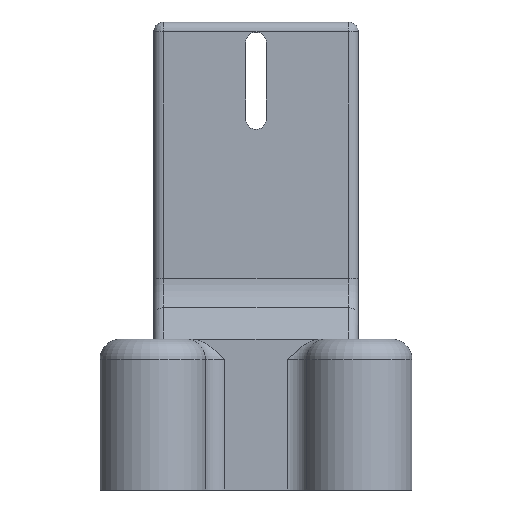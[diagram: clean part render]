
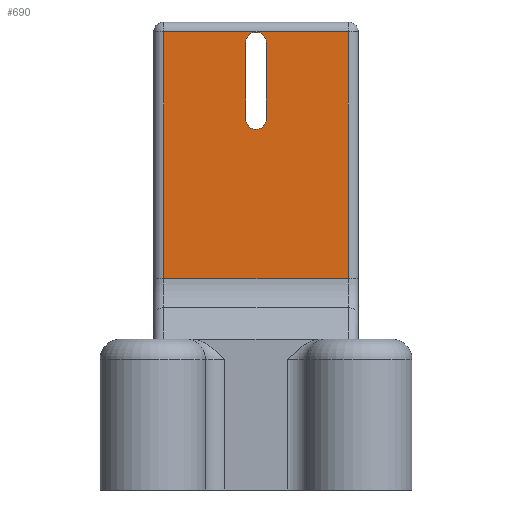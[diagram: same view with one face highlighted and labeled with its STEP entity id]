
A CAD part, left-side view. The second image highlights one B-rep face of the part: STEP entity #690.
In plain terms, the highlighted planar face has unit normal (-1, 0, 0).
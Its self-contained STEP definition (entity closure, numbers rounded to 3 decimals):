
#30=FACE_BOUND('',#228,.T.);
#37=PLANE('',#774);
#53=LINE('',#1090,#100);
#71=LINE('',#1165,#118);
#73=LINE('',#1173,#120);
#78=LINE('',#1193,#125);
#79=LINE('',#1196,#126);
#80=LINE('',#1200,#127);
#100=VECTOR('',#842,10.);
#118=VECTOR('',#910,10.);
#120=VECTOR('',#920,10.);
#125=VECTOR('',#943,10.);
#126=VECTOR('',#944,10.);
#127=VECTOR('',#947,10.);
#183=FACE_OUTER_BOUND('',#227,.T.);
#227=EDGE_LOOP('',(#552,#553,#554,#555));
#228=EDGE_LOOP('',(#556,#557,#558,#559));
#283=CIRCLE('',#775,2.);
#284=CIRCLE('',#776,2.);
#309=VERTEX_POINT('',#1083);
#311=VERTEX_POINT('',#1088);
#334=VERTEX_POINT('',#1164);
#336=VERTEX_POINT('',#1171);
#343=VERTEX_POINT('',#1194);
#344=VERTEX_POINT('',#1195);
#345=VERTEX_POINT('',#1197);
#346=VERTEX_POINT('',#1199);
#373=EDGE_CURVE('',#311,#309,#53,.T.);
#407=EDGE_CURVE('',#309,#334,#71,.T.);
#411=EDGE_CURVE('',#336,#311,#73,.T.);
#421=EDGE_CURVE('',#334,#336,#78,.T.);
#422=EDGE_CURVE('',#343,#344,#79,.T.);
#423=EDGE_CURVE('',#344,#345,#283,.T.);
#424=EDGE_CURVE('',#345,#346,#80,.T.);
#425=EDGE_CURVE('',#346,#343,#284,.T.);
#552=ORIENTED_EDGE('',*,*,#373,.F.);
#553=ORIENTED_EDGE('',*,*,#411,.F.);
#554=ORIENTED_EDGE('',*,*,#421,.F.);
#555=ORIENTED_EDGE('',*,*,#407,.F.);
#556=ORIENTED_EDGE('',*,*,#422,.T.);
#557=ORIENTED_EDGE('',*,*,#423,.T.);
#558=ORIENTED_EDGE('',*,*,#424,.T.);
#559=ORIENTED_EDGE('',*,*,#425,.T.);
#690=ADVANCED_FACE('',(#183,#30),#37,.T.);
#774=AXIS2_PLACEMENT_3D('',#1192,#941,#942);
#775=AXIS2_PLACEMENT_3D('',#1198,#945,#946);
#776=AXIS2_PLACEMENT_3D('',#1201,#948,#949);
#842=DIRECTION('',(0.,-1.,0.));
#910=DIRECTION('',(0.,0.,-1.));
#920=DIRECTION('',(0.,0.,1.));
#941=DIRECTION('center_axis',(-1.,0.,0.));
#942=DIRECTION('ref_axis',(0.,-1.,0.));
#943=DIRECTION('',(0.,1.,0.));
#944=DIRECTION('',(0.,0.,1.));
#945=DIRECTION('center_axis',(1.,0.,0.));
#946=DIRECTION('ref_axis',(0.,1.,0.));
#947=DIRECTION('',(0.,0.,-1.));
#948=DIRECTION('center_axis',(1.,0.,0.));
#949=DIRECTION('ref_axis',(0.,-1.,0.));
#1083=CARTESIAN_POINT('',(8.5,-18.001,89.6));
#1088=CARTESIAN_POINT('',(8.5,18.001,89.6));
#1090=CARTESIAN_POINT('',(8.5,10.,89.6));
#1164=CARTESIAN_POINT('',(8.5,-18.001,41.314));
#1165=CARTESIAN_POINT('',(8.5,-18.001,23.));
#1171=CARTESIAN_POINT('',(8.5,18.001,41.314));
#1173=CARTESIAN_POINT('',(8.5,18.001,23.));
#1192=CARTESIAN_POINT('Origin',(8.5,20.,23.));
#1193=CARTESIAN_POINT('',(8.5,15.,41.314));
#1194=CARTESIAN_POINT('',(8.5,2.,72.5));
#1195=CARTESIAN_POINT('',(8.5,2.,87.5));
#1196=CARTESIAN_POINT('',(8.5,2.,55.25));
#1197=CARTESIAN_POINT('',(8.5,-2.,87.5));
#1198=CARTESIAN_POINT('Origin',(8.5,0.,87.5));
#1199=CARTESIAN_POINT('',(8.5,-2.,72.5));
#1200=CARTESIAN_POINT('',(8.5,-2.,47.75));
#1201=CARTESIAN_POINT('Origin',(8.5,0.,72.5));
